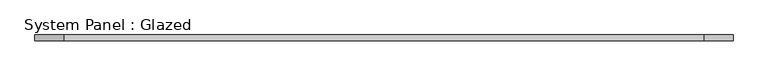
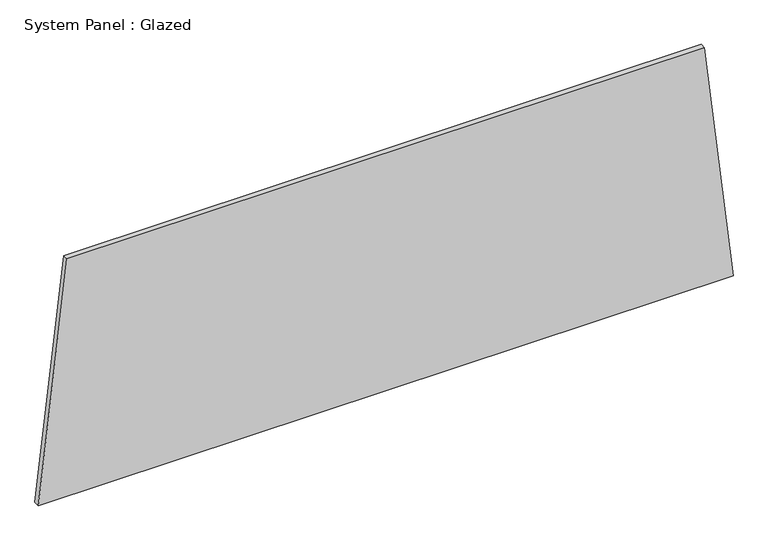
"""IFC4 building model written with IfcOpenShell, lengths in millimetres: plate geometry, System Panel : Glazed."""

from ifc_helpers import new_model, si_unit, frame, origin, place, context, project, spatial, polyline, outline, extrude, source, transform, mapped, element, save


def system_panel_glazed_56d5725f(model_context):
    return source(origin(), model_context, "Body", "SweptSolid", [
        extrude(outline(polyline([(0.0, -1467.6133237), (0.0, 1467.6133237), (1059.9187468, 1346.640227), (1059.9187468, -1346.640227), (0.0, -1467.6133237)])), frame((0.0, -49.5, 0.0), z_axis=(0.0, 1.0, 0.0), x_axis=(0.0, 0.0, 1.0)), (0.0, 0.0, 1.0), 25.0),
    ])


if __name__ == "__main__":
    model = new_model("IFC4")
    model_context = context("Model", 3, world=origin())
    ifc_project = project(units=[si_unit("LENGTHUNIT", "METRE", prefix="MILLI")], contexts=[model_context])
    site = spatial("IfcSite", under=ifc_project)
    building = spatial("IfcBuilding", under=site)
    placement = place(None, origin())
    system_panel_glazed_shape = system_panel_glazed_56d5725f(model_context)
    element("IfcPlate", 1, ObjectType="System Panel : Glazed", at=placement, inside=building, context=model_context, shape_type="MappedRepresentation", body=[
        mapped(system_panel_glazed_shape, transform((0.0, 0.0, 0.0), x_axis=(1.0, 0.0, 0.0), y_axis=(0.0, 1.0, 0.0), z_axis=(0.0, 0.0, 1.0))),
    ])
    save(model, "model.ifc")
